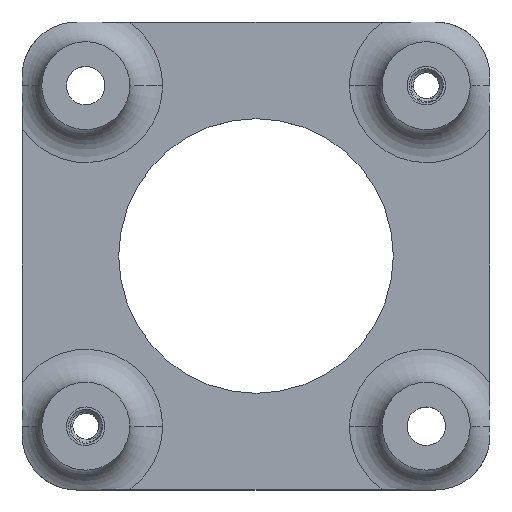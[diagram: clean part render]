
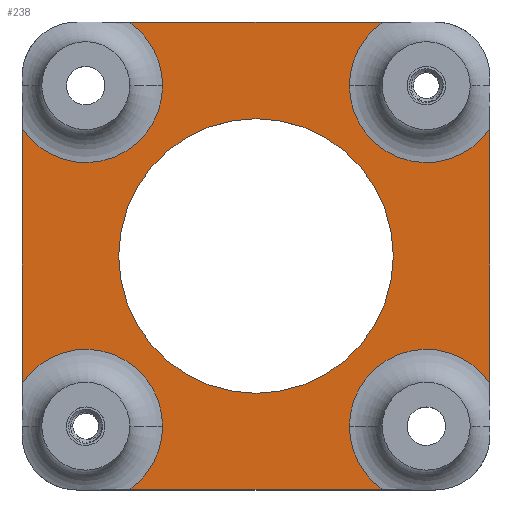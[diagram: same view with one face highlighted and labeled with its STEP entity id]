
A CAD part, top view. The second image highlights one B-rep face of the part: STEP entity #238.
In plain terms, the highlighted planar face has unit normal (0, 0, 1).
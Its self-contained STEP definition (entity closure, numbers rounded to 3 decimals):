
#120=AXIS2_PLACEMENT_3D('Plane Axis2P3D',#117,#118,#119) ;
#133=AXIS2_PLACEMENT_3D('Circle Axis2P3D',#131,#132,$) ;
#140=AXIS2_PLACEMENT_3D('Circle Axis2P3D',#138,#139,$) ;
#154=AXIS2_PLACEMENT_3D('Circle Axis2P3D',#152,#153,$) ;
#161=AXIS2_PLACEMENT_3D('Circle Axis2P3D',#159,#160,$) ;
#175=AXIS2_PLACEMENT_3D('Circle Axis2P3D',#173,#174,$) ;
#182=AXIS2_PLACEMENT_3D('Circle Axis2P3D',#180,#181,$) ;
#196=AXIS2_PLACEMENT_3D('Circle Axis2P3D',#194,#195,$) ;
#203=AXIS2_PLACEMENT_3D('Circle Axis2P3D',#201,#202,$) ;
#222=AXIS2_PLACEMENT_3D('Circle Axis2P3D',#220,#221,$) ;
#231=AXIS2_PLACEMENT_3D('Circle Axis2P3D',#229,#230,$) ;
#117=CARTESIAN_POINT('Axis2P3D Location',(0.,0.,2.)) ;
#122=CARTESIAN_POINT('Line Origine',(0.,-21.3,2.)) ;
#126=CARTESIAN_POINT('Vertex',(-11.581,-21.3,2.)) ;
#128=CARTESIAN_POINT('Vertex',(11.581,-21.3,2.)) ;
#131=CARTESIAN_POINT('Axis2P3D Location',(15.5,-15.5,2.)) ;
#135=CARTESIAN_POINT('Vertex',(8.5,-15.5,2.)) ;
#138=CARTESIAN_POINT('Axis2P3D Location',(15.5,-15.5,2.)) ;
#142=CARTESIAN_POINT('Vertex',(21.3,-11.581,2.)) ;
#145=CARTESIAN_POINT('Line Origine',(21.3,0.,2.)) ;
#149=CARTESIAN_POINT('Vertex',(21.3,11.581,2.)) ;
#152=CARTESIAN_POINT('Axis2P3D Location',(15.5,15.5,2.)) ;
#156=CARTESIAN_POINT('Vertex',(8.5,15.5,2.)) ;
#159=CARTESIAN_POINT('Axis2P3D Location',(15.5,15.5,2.)) ;
#163=CARTESIAN_POINT('Vertex',(11.581,21.3,2.)) ;
#166=CARTESIAN_POINT('Line Origine',(0.,21.3,2.)) ;
#170=CARTESIAN_POINT('Vertex',(-11.581,21.3,2.)) ;
#173=CARTESIAN_POINT('Axis2P3D Location',(-15.5,15.5,2.)) ;
#177=CARTESIAN_POINT('Vertex',(-8.5,15.5,2.)) ;
#180=CARTESIAN_POINT('Axis2P3D Location',(-15.5,15.5,2.)) ;
#184=CARTESIAN_POINT('Vertex',(-21.3,11.581,2.)) ;
#187=CARTESIAN_POINT('Line Origine',(-21.3,0.,2.)) ;
#191=CARTESIAN_POINT('Vertex',(-21.3,-11.581,2.)) ;
#194=CARTESIAN_POINT('Axis2P3D Location',(-15.5,-15.5,2.)) ;
#198=CARTESIAN_POINT('Vertex',(-8.5,-15.5,2.)) ;
#201=CARTESIAN_POINT('Axis2P3D Location',(-15.5,-15.5,2.)) ;
#220=CARTESIAN_POINT('Axis2P3D Location',(0.,0.,2.)) ;
#224=CARTESIAN_POINT('Vertex',(-12.5,0.,2.)) ;
#226=CARTESIAN_POINT('Vertex',(12.5,0.,2.)) ;
#229=CARTESIAN_POINT('Axis2P3D Location',(0.,0.,2.)) ;
#118=DIRECTION('Axis2P3D Direction',(0.,0.,1.)) ;
#119=DIRECTION('Axis2P3D XDirection',(1.,0.,0.)) ;
#123=DIRECTION('Vector Direction',(-1.,0.,0.)) ;
#132=DIRECTION('Axis2P3D Direction',(0.,0.,1.)) ;
#139=DIRECTION('Axis2P3D Direction',(0.,0.,1.)) ;
#146=DIRECTION('Vector Direction',(0.,-1.,0.)) ;
#153=DIRECTION('Axis2P3D Direction',(0.,0.,1.)) ;
#160=DIRECTION('Axis2P3D Direction',(0.,0.,1.)) ;
#167=DIRECTION('Vector Direction',(1.,0.,0.)) ;
#174=DIRECTION('Axis2P3D Direction',(0.,0.,1.)) ;
#181=DIRECTION('Axis2P3D Direction',(0.,0.,1.)) ;
#188=DIRECTION('Vector Direction',(0.,1.,0.)) ;
#195=DIRECTION('Axis2P3D Direction',(0.,0.,1.)) ;
#202=DIRECTION('Axis2P3D Direction',(0.,0.,1.)) ;
#221=DIRECTION('Axis2P3D Direction',(0.,0.,1.)) ;
#230=DIRECTION('Axis2P3D Direction',(0.,0.,1.)) ;
#124=VECTOR('Line Direction',#123,1.) ;
#147=VECTOR('Line Direction',#146,1.) ;
#168=VECTOR('Line Direction',#167,1.) ;
#189=VECTOR('Line Direction',#188,1.) ;
#207=ORIENTED_EDGE('',*,*,#130,.T.) ;
#208=ORIENTED_EDGE('',*,*,#137,.T.) ;
#209=ORIENTED_EDGE('',*,*,#144,.T.) ;
#210=ORIENTED_EDGE('',*,*,#151,.T.) ;
#211=ORIENTED_EDGE('',*,*,#158,.T.) ;
#212=ORIENTED_EDGE('',*,*,#165,.T.) ;
#213=ORIENTED_EDGE('',*,*,#172,.T.) ;
#214=ORIENTED_EDGE('',*,*,#179,.T.) ;
#215=ORIENTED_EDGE('',*,*,#186,.T.) ;
#216=ORIENTED_EDGE('',*,*,#193,.T.) ;
#217=ORIENTED_EDGE('',*,*,#200,.T.) ;
#218=ORIENTED_EDGE('',*,*,#205,.T.) ;
#235=ORIENTED_EDGE('',*,*,#228,.F.) ;
#236=ORIENTED_EDGE('',*,*,#233,.F.) ;
#237=FACE_BOUND('',#234,.T.) ;
#238=ADVANCED_FACE('Inserti',(#219,#237),#121,.T.) ;
#134=CIRCLE('generated circle',#133,7.) ;
#141=CIRCLE('generated circle',#140,7.) ;
#155=CIRCLE('generated circle',#154,7.) ;
#162=CIRCLE('generated circle',#161,7.) ;
#176=CIRCLE('generated circle',#175,7.) ;
#183=CIRCLE('generated circle',#182,7.) ;
#197=CIRCLE('generated circle',#196,7.) ;
#204=CIRCLE('generated circle',#203,7.) ;
#223=CIRCLE('generated circle',#222,12.5) ;
#232=CIRCLE('generated circle',#231,12.5) ;
#130=EDGE_CURVE('',#127,#129,#125,.F.) ;
#137=EDGE_CURVE('',#129,#136,#134,.F.) ;
#144=EDGE_CURVE('',#136,#143,#141,.F.) ;
#151=EDGE_CURVE('',#143,#150,#148,.F.) ;
#158=EDGE_CURVE('',#150,#157,#155,.F.) ;
#165=EDGE_CURVE('',#157,#164,#162,.F.) ;
#172=EDGE_CURVE('',#164,#171,#169,.F.) ;
#179=EDGE_CURVE('',#171,#178,#176,.F.) ;
#186=EDGE_CURVE('',#178,#185,#183,.F.) ;
#193=EDGE_CURVE('',#185,#192,#190,.F.) ;
#200=EDGE_CURVE('',#192,#199,#197,.F.) ;
#205=EDGE_CURVE('',#199,#127,#204,.F.) ;
#228=EDGE_CURVE('',#225,#227,#223,.T.) ;
#233=EDGE_CURVE('',#227,#225,#232,.T.) ;
#206=EDGE_LOOP('',(#207,#208,#209,#210,#211,#212,#213,#214,#215,#216,#217,#218)) ;
#234=EDGE_LOOP('',(#235,#236)) ;
#219=FACE_OUTER_BOUND('',#206,.T.) ;
#125=LINE('Line',#122,#124) ;
#148=LINE('Line',#145,#147) ;
#169=LINE('Line',#166,#168) ;
#190=LINE('Line',#187,#189) ;
#121=PLANE('',#120) ;
#127=VERTEX_POINT('',#126) ;
#129=VERTEX_POINT('',#128) ;
#136=VERTEX_POINT('',#135) ;
#143=VERTEX_POINT('',#142) ;
#150=VERTEX_POINT('',#149) ;
#157=VERTEX_POINT('',#156) ;
#164=VERTEX_POINT('',#163) ;
#171=VERTEX_POINT('',#170) ;
#178=VERTEX_POINT('',#177) ;
#185=VERTEX_POINT('',#184) ;
#192=VERTEX_POINT('',#191) ;
#199=VERTEX_POINT('',#198) ;
#225=VERTEX_POINT('',#224) ;
#227=VERTEX_POINT('',#226) ;
